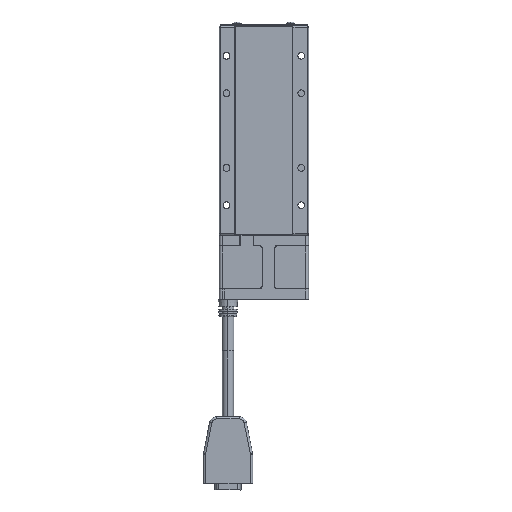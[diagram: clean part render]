
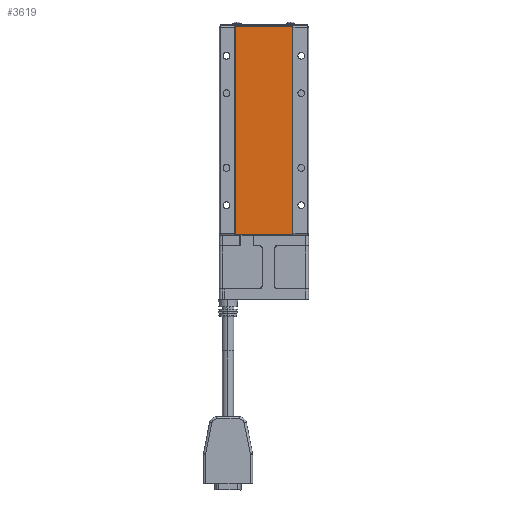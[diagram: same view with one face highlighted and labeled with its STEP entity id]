
A CAD part, front view. The second image highlights one B-rep face of the part: STEP entity #3619.
In plain terms, the highlighted planar face has unit normal (0, -1, 0).
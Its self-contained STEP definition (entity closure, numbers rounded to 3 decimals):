
#3619 = ADVANCED_FACE ( 'NONE', ( #11371 ), #98197, .F. ) ;
#11371 = FACE_OUTER_BOUND ( 'NONE', #101781, .T. ) ;
#12404 = CARTESIAN_POINT ( 'NONE',  ( 19.3, -10.95, 69.8 ) ) ;
#15920 = ORIENTED_EDGE ( 'NONE', *, *, #116553, .T. ) ;
#19751 = EDGE_CURVE ( 'NONE', #35534, #96328, #121287, .T. ) ;
#22711 = CARTESIAN_POINT ( 'NONE',  ( 19.3, -10.95, -69.8 ) ) ;
#30243 = VECTOR ( 'NONE', #59946, 1000. ) ;
#30704 = ORIENTED_EDGE ( 'NONE', *, *, #58520, .T. ) ;
#34056 = LINE ( 'NONE', #58180, #112200 ) ;
#35415 = VERTEX_POINT ( 'NONE', #123463 ) ;
#35534 = VERTEX_POINT ( 'NONE', #137623 ) ;
#35939 = LINE ( 'NONE', #123528, #87550 ) ;
#38588 = LINE ( 'NONE', #100803, #30243 ) ;
#44038 = DIRECTION ( 'NONE',  ( 1., 0., 0. ) ) ;
#53192 = AXIS2_PLACEMENT_3D ( 'NONE', #22711, #130214, #44038 ) ;
#55707 = DIRECTION ( 'NONE',  ( -1., 0., 0. ) ) ;
#58180 = CARTESIAN_POINT ( 'NONE',  ( 19.3, -10.95, -69.8 ) ) ;
#58520 = EDGE_CURVE ( 'NONE', #35415, #35534, #35939, .T. ) ;
#59946 = DIRECTION ( 'NONE',  ( 0., 0., -1. ) ) ;
#77660 = ORIENTED_EDGE ( 'NONE', *, *, #94713, .T. ) ;
#79369 = DIRECTION ( 'NONE',  ( 0., 0., 1. ) ) ;
#80292 = DIRECTION ( 'NONE',  ( 1., 0., 0. ) ) ;
#83733 = VECTOR ( 'NONE', #55707, 1000. ) ;
#84269 = CARTESIAN_POINT ( 'NONE',  ( -19.3, -10.95, 69.8 ) ) ;
#87550 = VECTOR ( 'NONE', #79369, 1000. ) ;
#88648 = VERTEX_POINT ( 'NONE', #107477 ) ;
#94713 = EDGE_CURVE ( 'NONE', #96328, #88648, #38588, .T. ) ;
#96328 = VERTEX_POINT ( 'NONE', #84269 ) ;
#98197 = PLANE ( 'NONE',  #53192 ) ;
#100803 = CARTESIAN_POINT ( 'NONE',  ( -19.3, -10.95, 69.8 ) ) ;
#101781 = EDGE_LOOP ( 'NONE', ( #30704, #125004, #77660, #15920 ) ) ;
#107477 = CARTESIAN_POINT ( 'NONE',  ( -19.3, -10.95, -69.8 ) ) ;
#112200 = VECTOR ( 'NONE', #80292, 1000. ) ;
#116553 = EDGE_CURVE ( 'NONE', #88648, #35415, #34056, .T. ) ;
#121287 = LINE ( 'NONE', #12404, #83733 ) ;
#123463 = CARTESIAN_POINT ( 'NONE',  ( 19.3, -10.95, -69.8 ) ) ;
#123528 = CARTESIAN_POINT ( 'NONE',  ( 19.3, -10.95, 69.8 ) ) ;
#125004 = ORIENTED_EDGE ( 'NONE', *, *, #19751, .T. ) ;
#130214 = DIRECTION ( 'NONE',  ( 0., 1., 0. ) ) ;
#137623 = CARTESIAN_POINT ( 'NONE',  ( 19.3, -10.95, 69.8 ) ) ;
